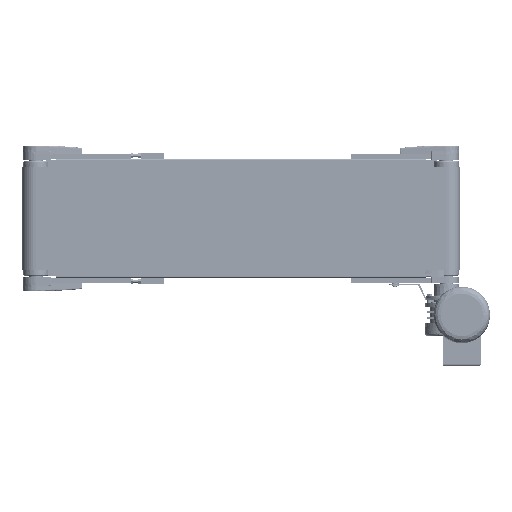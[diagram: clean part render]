
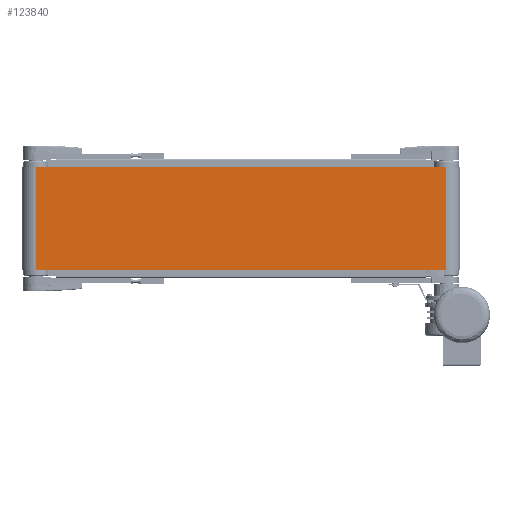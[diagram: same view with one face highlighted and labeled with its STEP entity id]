
A CAD part, front view. The second image highlights one B-rep face of the part: STEP entity #123840.
In plain terms, the highlighted planar face has unit normal (0, -1, 0).
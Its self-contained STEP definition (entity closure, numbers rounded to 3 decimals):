
#10577 = CARTESIAN_POINT ( 'NONE',  ( -400., -27., 100. ) ) ;
#11314 = DIRECTION ( 'NONE',  ( 0., 1., 0. ) ) ;
#15151 = CARTESIAN_POINT ( 'NONE',  ( 400., -27., 100. ) ) ;
#19922 = AXIS2_PLACEMENT_3D ( 'NONE', #107617, #11314, #76688 ) ;
#23532 = VERTEX_POINT ( 'NONE', #135466 ) ;
#34430 = ORIENTED_EDGE ( 'NONE', *, *, #83610, .F. ) ;
#36708 = ORIENTED_EDGE ( 'NONE', *, *, #109860, .T. ) ;
#36860 = VERTEX_POINT ( 'NONE', #15151 ) ;
#38423 = CARTESIAN_POINT ( 'NONE',  ( 400., -27., 100. ) ) ;
#46843 = VECTOR ( 'NONE', #136129, 1000. ) ;
#48175 = VECTOR ( 'NONE', #136458, 1000. ) ;
#52671 = ORIENTED_EDGE ( 'NONE', *, *, #76634, .T. ) ;
#57873 = DIRECTION ( 'NONE',  ( 1., 0., 0. ) ) ;
#64045 = FACE_OUTER_BOUND ( 'NONE', #115815, .T. ) ;
#69081 = CARTESIAN_POINT ( 'NONE',  ( -400., -27., 100. ) ) ;
#76634 = EDGE_CURVE ( 'NONE', #23532, #93390, #96360, .T. ) ;
#76688 = DIRECTION ( 'NONE',  ( 0., 0., 1. ) ) ;
#80881 = ORIENTED_EDGE ( 'NONE', *, *, #124238, .F. ) ;
#83610 = EDGE_CURVE ( 'NONE', #36860, #115677, #91870, .T. ) ;
#91870 = LINE ( 'NONE', #38423, #46843 ) ;
#93390 = VERTEX_POINT ( 'NONE', #118274 ) ;
#94714 = CARTESIAN_POINT ( 'NONE',  ( 400., -27., -100. ) ) ;
#96360 = LINE ( 'NONE', #10577, #48175 ) ;
#100640 = CARTESIAN_POINT ( 'NONE',  ( -400., -27., -100. ) ) ;
#107617 = CARTESIAN_POINT ( 'NONE',  ( -400., -27., 100. ) ) ;
#109860 = EDGE_CURVE ( 'NONE', #93390, #115677, #111901, .T. ) ;
#111901 = LINE ( 'NONE', #100640, #126838 ) ;
#113948 = DIRECTION ( 'NONE',  ( 1., 0., 0. ) ) ;
#115677 = VERTEX_POINT ( 'NONE', #94714 ) ;
#115815 = EDGE_LOOP ( 'NONE', ( #36708, #34430, #80881, #52671 ) ) ;
#116445 = VECTOR ( 'NONE', #57873, 1000. ) ;
#118274 = CARTESIAN_POINT ( 'NONE',  ( -400., -27., -100. ) ) ;
#121134 = LINE ( 'NONE', #69081, #116445 ) ;
#123840 = ADVANCED_FACE ( 'NONE', ( #64045 ), #130767, .F. ) ;
#124238 = EDGE_CURVE ( 'NONE', #23532, #36860, #121134, .T. ) ;
#126838 = VECTOR ( 'NONE', #113948, 1000. ) ;
#130767 = PLANE ( 'NONE',  #19922 ) ;
#135466 = CARTESIAN_POINT ( 'NONE',  ( -400., -27., 100. ) ) ;
#136129 = DIRECTION ( 'NONE',  ( 0., 0., -1. ) ) ;
#136458 = DIRECTION ( 'NONE',  ( 0., 0., -1. ) ) ;
